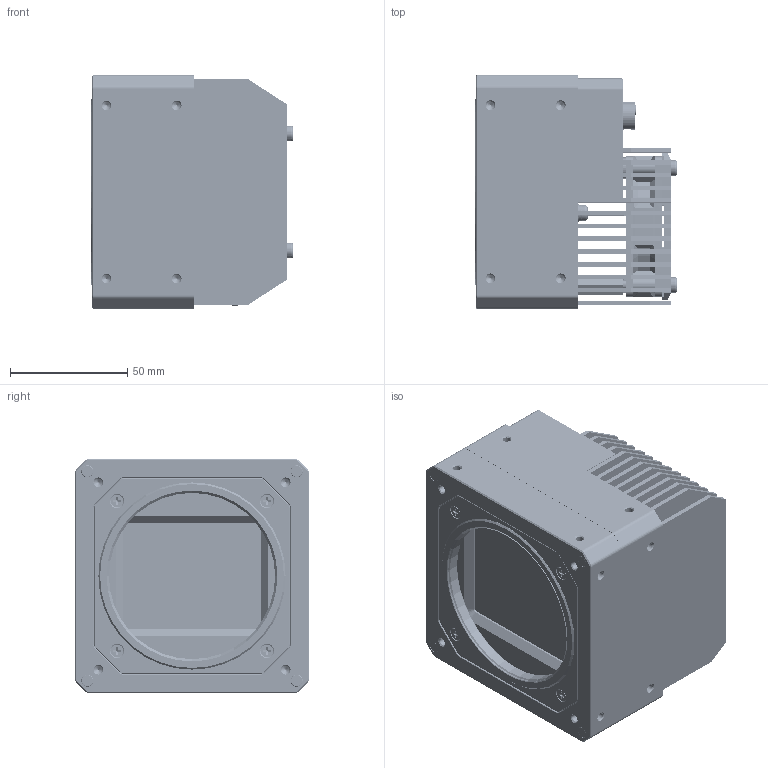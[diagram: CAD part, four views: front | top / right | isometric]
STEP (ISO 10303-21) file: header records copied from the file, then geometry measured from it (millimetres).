
FILE_DESCRIPTION((''),'2;1');
FILE_NAME('00-MV-CH1510-11XM-V2_ASM','2026-06-16T20:39:56',('wangyijun6'),(''),'CREO PARAMETRIC BY PTC INC, 2020044','CREO PARAMETRIC BY PTC INC, 2020044','');
FILE_SCHEMA(('CONFIG_CONTROL_DESIGN'));
Products named in the file (30): 101305980; OBFS100PCB-A738-BODY-1-SOLID1; DE-19-000860; PCB-JIEKOUBAN-V2-CXP6_12_ASM; DE-14-075090; DE-12-000333; HR10A-10R-12PB; SC-KM2X4-NI-GB819; D-01-35-26-0467; SC-T1M2X4NL-B; DE-1A-000192; BACK-COVER-ASM-CXP_ASM; DE-14-074907; 101800347; DE-14-074908; ST-S8X20-M4X5-F4X10-SUS; SC-PSFM4X8; SC-PM4X25-BZN-JMP; SANRE-ASM_ASM; RUBBER-LUOSI0-GAOFENBAIN; DE-14-098648; FPC-ZHONGKUANG-ERDAI-ASM_ASM; DE-14-098651; DE-14-098652; GLASS-73X59_6-2_5; DE-14-068457; GLASS-COVER-ASM_ASM; SC-KM3X5NL-B-JMF; FRONT-COVER-GMAX32152_ASM; 00-MV-CH1510-11XM-V2_ASM
Assembly tree (54 placements, depth 4):
  00-MV-CH1510-11XM-V2_ASM
    PCB-JIEKOUBAN-V2-CXP6_12_ASM
      101305980
      OBFS100PCB-A738-BODY-1-SOLID1  x4
      DE-19-000860  x4
    BACK-COVER-ASM-CXP_ASM
      DE-14-075090
      DE-12-000333
      HR10A-10R-12PB
      SC-KM2X4-NI-GB819  x2
      D-01-35-26-0467  x4
      SC-T1M2X4NL-B  x2
      DE-1A-000192  x2
    SANRE-ASM_ASM
      DE-14-074907
      101800347
      DE-14-074908
      ST-S8X20-M4X5-F4X10-SUS  x2
      SC-PSFM4X8  x2
      SC-PM4X25-BZN-JMP  x4
    RUBBER-LUOSI0-GAOFENBAIN  x2
    FPC-ZHONGKUANG-ERDAI-ASM_ASM
      DE-14-098648
    FRONT-COVER-GMAX32152_ASM
      DE-14-098651
      DE-14-098652
      GLASS-COVER-ASM_ASM
        GLASS-73X59_6-2_5
        DE-14-068457
      SC-KM3X5NL-B-JMF  x4
      RUBBER-LUOSI0-GAOFENBAIN  x4
Bounding box: 86.51 x 100 x 100 mm (x, y, z)
Volume: 214767.6 mm3; surface area: 216156.1 mm2
Topology: 48 solids, 112 shells, 5246 faces, 13816 edges, 8805 vertices
Faces by surface type: plane 2693, cylinder 1602, cone 655, torus 176, bspline 114, revolution 6
Entity records: 146369 total; most frequent: CARTESIAN_POINT 38501, DIRECTION 22454, ORIENTED_EDGE 22398, EDGE_CURVE 11297, AXIS2_PLACEMENT_3D 7674, VERTEX_POINT 7273, VECTOR 7100, LINE 7100
